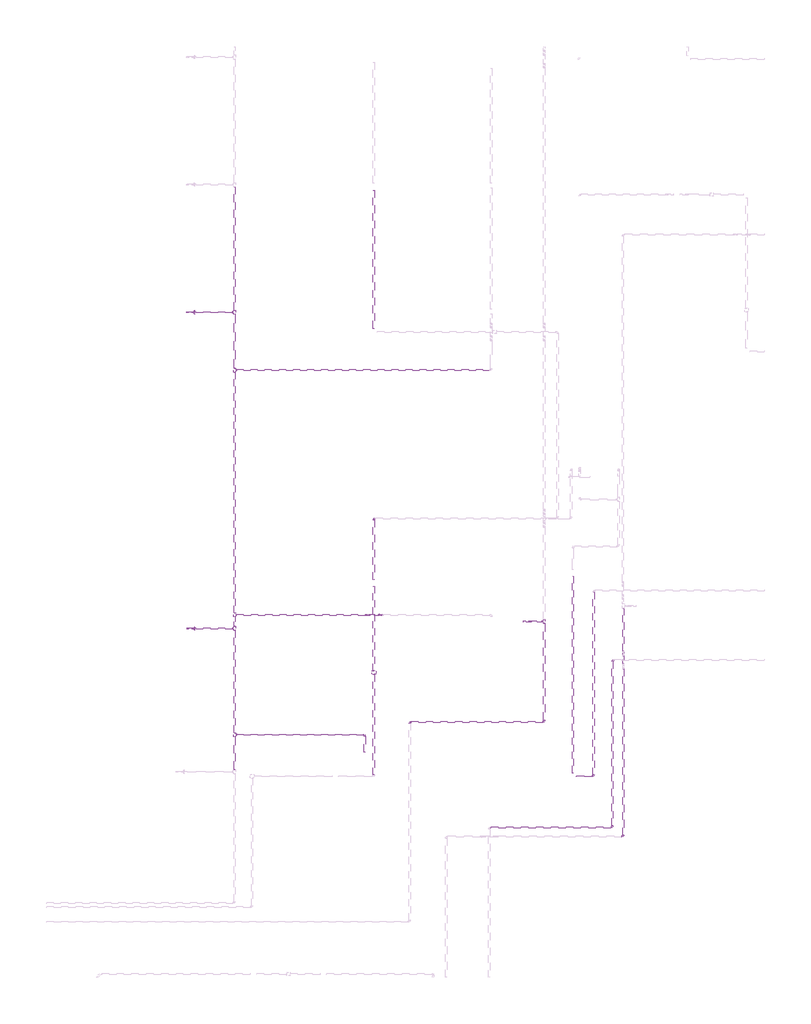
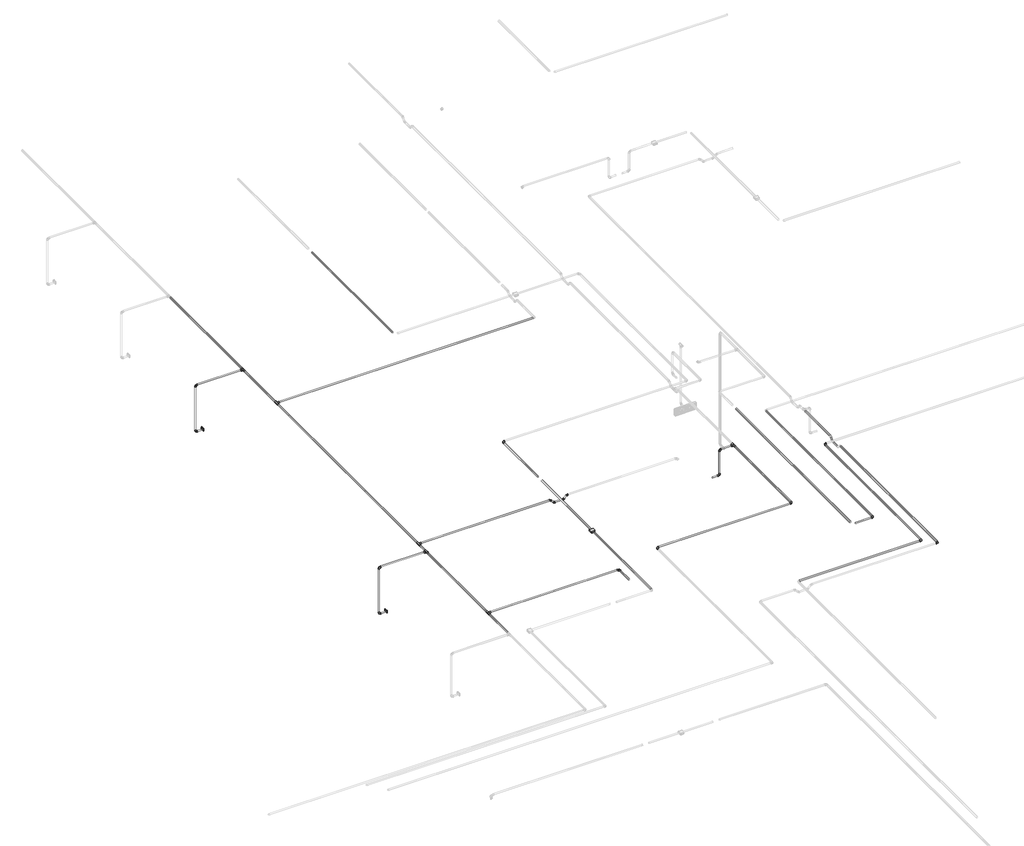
# One storey, part 33 of 40: 37 cable carrier segments, 24 cable carrier fittings, 2 electric appliances, 1 alarm.
"""IFC4 building model written with IfcOpenShell, lengths in millimetres."""

from ifc_helpers import new_model, si_unit, point, frame, frame_2d, origin, place, context, project, spatial, circle_curve, trimmed, segment, composite_curve, outline, extrude, transform, mapped, element, save
from components import alarm_a2247946, cable_carrier_fitting_69f1a801, cable_carrier_fitting_8122f9af, cable_carrier_fitting_8fd13dfc, electric_appliance_5961a143

model = new_model("IFC4")

# Units and contexts
model_context = context("Model", 3, world=origin())
ifc_project = project(units=[si_unit("LENGTHUNIT", "METRE", prefix="MILLI")], contexts=[model_context])

# Site, building, storey
site = spatial("IfcSite", under=ifc_project)
building = spatial("IfcBuilding", under=site)
storey = spatial("IfcBuildingStorey", under=building, Name="1 этаж", Elevation=0.0)

# Alarm
placement = place(None, origin())
alarm_shape = alarm_a2247946(model_context)
element("IfcAlarm", 1, ObjectType="RBZ_ИзоляторШлейфа_Рубеж_ИЗ-1_прот.R3(плоскость) : ИЗ-1 прот.R3", at=placement, inside=storey, context=model_context, shape_type="MappedRepresentation", body=[
    mapped(alarm_shape, transform((7707.6757787, 9264.6370105, 3200.0419569), x_axis=(1.0, 0.0, 0.0), y_axis=(0.0, 1.0, 0.0), z_axis=(0.0, 0.0, 1.0))),
])

# Cable carrier fittings
cable_carrier_fitting_shape = cable_carrier_fitting_69f1a801(model_context)
element("IfcCableCarrierFitting", 2, ObjectType="ADSK_Поворот_Минимальный размер : Неспецифицируемый", at=placement, inside=storey, context=model_context, shape_type="MappedRepresentation", body=[
    mapped(cable_carrier_fitting_shape, transform((11111.1760169, 9444.6370105, 3189.2746228), x_axis=(-0.9999999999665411, 0.0, 8.180339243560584e-06), y_axis=(0.0, -1.0000000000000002, 0.0), z_axis=(8.180339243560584e-06, 0.0, 0.9999999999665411))),
])
element("IfcCableCarrierFitting", 3, ObjectType="ADSK_Поворот_Минимальный размер : Неспецифицируемый", at=placement, inside=storey, context=model_context, shape_type="MappedRepresentation", body=[
    mapped(cable_carrier_fitting_shape, transform((10844.1759979, 7784.6370105, 3189.25), x_axis=(0.9999999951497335, 0.0, 9.849128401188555e-05), y_axis=(0.0, 1.0, 0.0), z_axis=(-9.849128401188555e-05, 0.0, 0.9999999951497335))),
])
element("IfcCableCarrierFitting", 4, ObjectType="ADSK_Поворот_Минимальный размер : Неспецифицируемый", at=placement, inside=storey, context=model_context, shape_type="MappedRepresentation", body=[
    mapped(cable_carrier_fitting_shape, transform((7707.6757787, 11464.6370416, 3189.2923808), x_axis=(-0.9999999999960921, 0.0, -2.79565728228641e-06), y_axis=(5.642374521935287e-11, -0.9999999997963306, -2.0182640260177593e-05), z_axis=(-2.79565728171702e-06, -2.0182640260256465e-05, 0.9999999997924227))),
])
element("IfcCableCarrierFitting", 5, ObjectType="ADSK_Поворот_Минимальный размер : Неспецифицируемый", at=placement, inside=storey, context=model_context, shape_type="MappedRepresentation", body=[
    mapped(cable_carrier_fitting_shape, transform((11111.1760169, 7054.6370105, 3189.2746228), x_axis=(0.9999999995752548, 0.0, -2.9146021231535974e-05), y_axis=(0.0, 1.0, 0.0), z_axis=(2.9146021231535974e-05, 0.0, 0.9999999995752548))),
])
element("IfcCableCarrierFitting", 6, ObjectType="ADSK_Поворот_Минимальный размер : Неспецифицируемый", at=placement, inside=storey, context=model_context, shape_type="MappedRepresentation", body=[
    mapped(cable_carrier_fitting_shape, transform((7577.6759979, 8377.0987933, 3187.0), x_axis=(0.0, 1.0, 0.0), y_axis=(-1.0, 0.0, 0.0), z_axis=(0.0, 0.0, 1.0))),
])
element("IfcCableCarrierFitting", 7, ObjectType="ADSK_Поворот_Минимальный размер : Неспецифицируемый", at=placement, inside=storey, context=model_context, shape_type="MappedRepresentation", body=[
    mapped(cable_carrier_fitting_shape, transform((5043.4761923, 9894.6370105, 2488.0911237), x_axis=(-1.0, 0.0, 0.0), y_axis=(0.0, 0.0, 1.0), z_axis=(0.0, 1.0, 0.0))),
])
element("IfcCableCarrierFitting", 8, ObjectType="ADSK_Поворот_Минимальный размер : Неспецифицируемый", at=placement, inside=storey, context=model_context, shape_type="MappedRepresentation", body=[
    mapped(cable_carrier_fitting_shape, transform((5043.4761923, 9894.6370105, 3187.0), x_axis=(0.0, 0.0, 1.0), y_axis=(1.0, 0.0, 0.0), z_axis=(0.0, 1.0, 0.0))),
])
element("IfcCableCarrierFitting", 9, ObjectType="ADSK_Поворот_Минимальный размер : Неспецифицируемый", at=placement, inside=storey, context=model_context, shape_type="MappedRepresentation", body=[
    mapped(cable_carrier_fitting_shape, transform((5043.4761923, 14404.6370105, 2488.0911237), x_axis=(-1.0, 0.0, 0.0), y_axis=(0.0, 0.0, 1.0), z_axis=(0.0, 1.0, 0.0))),
])
element("IfcCableCarrierFitting", 10, ObjectType="ADSK_Поворот_Минимальный размер : Неспецифицируемый", at=placement, inside=storey, context=model_context, shape_type="MappedRepresentation", body=[
    mapped(cable_carrier_fitting_shape, transform((5043.4761923, 14404.6370105, 3187.0), x_axis=(0.0, 0.0, 1.0), y_axis=(1.0, 0.0, 0.0), z_axis=(0.0, 1.0, 0.0))),
])
element("IfcCableCarrierFitting", 11, ObjectType="ADSK_Поворот_Минимальный размер : Неспецифицируемый", at=placement, inside=storey, context=model_context, shape_type="MappedRepresentation", body=[
    mapped(cable_carrier_fitting_shape, transform((10136.5137184, 8559.7138498, 3180.0), x_axis=(1.0, 0.0, 0.0), y_axis=(0.0, 1.0, 0.0), z_axis=(0.0, 0.0, 1.0))),
])
element("IfcCableCarrierFitting", 12, ObjectType="ADSK_Поворот_Минимальный размер : Неспецифицируемый", at=placement, inside=storey, context=model_context, shape_type="MappedRepresentation", body=[
    mapped(cable_carrier_fitting_shape, transform((8217.6759979, 8559.7138498, 3180.0), x_axis=(-1.0, 0.0, 0.0), y_axis=(0.0, -1.0, 0.0), z_axis=(0.0, 0.0, 1.0))),
])
element("IfcCableCarrierFitting", 13, ObjectType="ADSK_Поворот_Минимальный размер : Неспецифицируемый", at=placement, inside=storey, context=model_context, shape_type="MappedRepresentation", body=[
    mapped(cable_carrier_fitting_shape, transform((9934.8758035, 9994.6370105, 2797.4861504), x_axis=(1.0, 0.0, 0.0), y_axis=(0.0, 0.0, 1.0), z_axis=(0.0, -1.0, 0.0))),
])
element("IfcCableCarrierFitting", 14, ObjectType="ADSK_Поворот_Минимальный размер : Неспецифицируемый", at=placement, inside=storey, context=model_context, shape_type="MappedRepresentation", body=[
    mapped(cable_carrier_fitting_shape, transform((9934.8758035, 9994.6370105, 3180.0), x_axis=(0.0, 0.0, 1.0), y_axis=(1.0, 0.0, 0.0), z_axis=(0.0, 1.0, 0.0))),
])
element("IfcCableCarrierFitting", 15, ObjectType="ADSK_Поворот_Минимальный размер : Неспецифицируемый", at=placement, inside=storey, context=model_context, shape_type="MappedRepresentation", body=[
    mapped(cable_carrier_fitting_shape, transform((11267.6759979, 6924.6370105, 3180.0), x_axis=(1.0, 0.0, 0.0), y_axis=(0.0, 1.0, 0.0), z_axis=(0.0, 0.0, 1.0))),
])
cable_carrier_fitting_2_shape = cable_carrier_fitting_8122f9af(model_context)
element("IfcCableCarrierFitting", 16, ObjectType="ADSK_Поворот_Минимальный размер : Неспецифицируемый", at=placement, inside=storey, context=model_context, shape_type="MappedRepresentation", body=[
    mapped(cable_carrier_fitting_2_shape, transform((7774.24805, 10087.0987933, 3137.0), x_axis=(-0.7071067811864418, 0.0, -0.7071067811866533), y_axis=(-0.7071067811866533, 0.0, 0.7071067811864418), z_axis=(0.0, 1.0, 0.0))),
])
element("IfcCableCarrierFitting", 17, ObjectType="ADSK_Поворот_Минимальный размер : Неспецифицируемый", at=placement, inside=storey, context=model_context, shape_type="MappedRepresentation", body=[
    mapped(cable_carrier_fitting_2_shape, transform((7641.1035075, 10087.0987933, 3137.0), x_axis=(-1.0, 0.0, 0.0), y_axis=(0.0, 0.0, 1.0), z_axis=(0.0, 1.0, 0.0))),
])
element("IfcCableCarrierFitting", 18, ObjectType="ADSK_Поворот_Минимальный размер : Неспецифицируемый", at=placement, inside=storey, context=model_context, shape_type="MappedRepresentation", body=[
    mapped(cable_carrier_fitting_2_shape, transform((7591.1035075, 10087.0987933, 3187.0), x_axis=(-0.7071067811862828, 0.0, 0.7071067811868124), y_axis=(-0.7071067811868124, 0.0, -0.7071067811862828), z_axis=(0.0, -1.0, 0.0))),
])
element("IfcCableCarrierFitting", 19, ObjectType="ADSK_Поворот_Минимальный размер : Неспецифицируемый", at=placement, inside=storey, context=model_context, shape_type="MappedRepresentation", body=[
    mapped(cable_carrier_fitting_2_shape, transform((7824.24805, 10087.0987933, 3187.0), x_axis=(0.7071067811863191, 0.0, 0.7071067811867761), y_axis=(0.7071067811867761, 0.0, -0.7071067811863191), z_axis=(0.0, 1.0, 0.0))),
])
cable_carrier_fitting_3_shape = cable_carrier_fitting_8fd13dfc(model_context)
element("IfcCableCarrierFitting", 20, ObjectType="ADSK_Тройник : ПВХ", at=placement, inside=storey, context=model_context, shape_type="MappedRepresentation", body=[
    mapped(cable_carrier_fitting_3_shape, transform((5717.6759979, 8377.0987933, 3187.0), x_axis=(0.0, 1.0, 0.0), y_axis=(-1.0, 0.0, 0.0), z_axis=(0.0, 0.0, 1.0))),
])
element("IfcCableCarrierFitting", 21, ObjectType="ADSK_Тройник : ПВХ", at=placement, inside=storey, context=model_context, shape_type="MappedRepresentation", body=[
    mapped(cable_carrier_fitting_3_shape, transform((5717.6759979, 9894.6370105, 3187.0), x_axis=(0.0, -1.0, 0.0), y_axis=(1.0, 0.0, 0.0), z_axis=(0.0, 0.0, 1.0))),
])
element("IfcCableCarrierFitting", 22, ObjectType="ADSK_Тройник : ПВХ", at=placement, inside=storey, context=model_context, shape_type="MappedRepresentation", body=[
    mapped(cable_carrier_fitting_3_shape, transform((5717.6759979, 13578.8048473, 3187.0), x_axis=(0.0, 1.0, 0.0), y_axis=(-1.0, 0.0, 0.0), z_axis=(0.0, 0.0, 1.0))),
])
element("IfcCableCarrierFitting", 23, ObjectType="ADSK_Тройник : ПВХ", at=placement, inside=storey, context=model_context, shape_type="MappedRepresentation", body=[
    mapped(cable_carrier_fitting_3_shape, transform((5717.6759979, 14404.6370105, 3187.0), x_axis=(0.0, -1.0, 0.0), y_axis=(1.0, 0.0, 0.0), z_axis=(0.0, 0.0, 1.0))),
])
element("IfcCableCarrierFitting", 24, ObjectType="ADSK_Тройник : ПВХ", at=placement, inside=storey, context=model_context, shape_type="MappedRepresentation", body=[
    mapped(cable_carrier_fitting_3_shape, transform((10136.5137184, 9994.6370105, 3180.0), x_axis=(0.0, -1.0, 0.0), y_axis=(1.0, 0.0, 0.0), z_axis=(0.0, 0.0, 1.0))),
])
element("IfcCableCarrierFitting", 25, ObjectType="ADSK_Тройник : ПВХ", at=placement, inside=storey, context=model_context, shape_type="MappedRepresentation", body=[
    mapped(cable_carrier_fitting_3_shape, transform((5717.6759979, 10087.0987933, 3187.0), x_axis=(0.0, 1.0, 0.0), y_axis=(-1.0, 0.0, 0.0), z_axis=(0.0, 0.0, 1.0))),
])

# Cable carrier segments
element("IfcCableCarrierSegment", 26, ObjectType="Гофрированная труба", at=placement, inside=storey, context=model_context, shape_type="SweptSolid", body=[
    extrude(outline(composite_curve([segment(trimmed(circle_curve(frame_2d((3189.2549719, 10547.6759458)), 10.0), [point((3189.2549719, 10537.6759458))], [point((3179.2549719, 10547.6759458))], False, "CARTESIAN"), True, "CONTINUOUS"), segment(trimmed(circle_curve(frame_2d((3189.2549719, 10547.6759458)), 10.0), [point((3179.2549719, 10547.6759458))], [point((3189.2549719, 10557.6759458))], False, "CARTESIAN"), True, "CONTINUOUS"), segment(trimmed(circle_curve(frame_2d((3189.2549719, 10547.6759458)), 10.0), [point((3189.2549719, 10557.6759458))], [point((3199.2549719, 10547.6759458))], False, "CARTESIAN"), True, "CONTINUOUS"), segment(trimmed(circle_curve(frame_2d((3189.2549719, 10547.6759458)), 10.0), [point((3199.2549719, 10547.6759458))], [point((3189.2549719, 10537.6759458))], False, "CARTESIAN"), True, "CONTINUOUS")], self_intersect=False)), frame((0.0, 7831.1370105, 0.0), z_axis=(0.0, 1.0, 0.0), x_axis=(0.0, 0.0, 1.0)), (0.0, 0.0, 1.0), 2807.0),
])
element("IfcCableCarrierSegment", 27, ObjectType="Гофрированная труба", at=placement, inside=storey, context=model_context, shape_type="SweptSolid", body=[
    extrude(outline(composite_curve([segment(trimmed(circle_curve(frame_2d((3189.2746228, 11111.1760169)), 10.0), [point((3189.2747046, 11101.1760169))], [point((3179.2746228, 11111.1759351))], False, "CARTESIAN"), True, "CONTINUOUS"), segment(trimmed(circle_curve(frame_2d((3189.2746228, 11111.1760169)), 10.0), [point((3179.2746228, 11111.1759351))], [point((3189.274541, 11121.1760169))], False, "CARTESIAN"), True, "CONTINUOUS"), segment(trimmed(circle_curve(frame_2d((3189.2746228, 11111.1760169)), 10.0), [point((3189.274541, 11121.1760169))], [point((3199.2746228, 11111.1760987))], False, "CARTESIAN"), True, "CONTINUOUS"), segment(trimmed(circle_curve(frame_2d((3189.2746228, 11111.1760169)), 10.0), [point((3199.2746228, 11111.1760987))], [point((3189.2747046, 11101.1760169))], False, "CARTESIAN"), True, "CONTINUOUS")], self_intersect=False)), frame((0.0, 7075.6370105, 0.0), z_axis=(0.0, 1.0, 0.0), x_axis=(0.0, 0.0, 1.0)), (0.0, 0.0, 1.0), 2348.0),
])
element("IfcCableCarrierSegment", 28, ObjectType="Гофрированная труба", at=placement, inside=storey, context=model_context, shape_type="SweptSolid", body=[
    extrude(outline(composite_curve([segment(trimmed(circle_curve(frame_2d((0.0, -10.0)), 10.0), [point((-10.0, -10.0))], [point((0.0, 0.0))], False, "CARTESIAN"), True, "CONTINUOUS"), segment(trimmed(circle_curve(frame_2d((0.0, -10.0)), 10.0), [point((0.0, 0.0))], [point((10.0, -10.0))], False, "CARTESIAN"), True, "CONTINUOUS"), segment(trimmed(circle_curve(frame_2d((0.0, -10.0)), 10.0), [point((10.0, -10.0))], [point((0.0, -20.0))], False, "CARTESIAN"), True, "CONTINUOUS"), segment(trimmed(circle_curve(frame_2d((0.0, -10.0)), 10.0), [point((0.0, -20.0))], [point((-10.0, -10.0))], False, "CARTESIAN"), True, "CONTINUOUS")], self_intersect=False)), frame((11090.1758726, 7054.6370105, 3179.2752349), z_axis=(-0.9999999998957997, 0.0, 1.443608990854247e-05), x_axis=(0.0, 1.0, 0.0)), (0.0, 0.0, 1.0), 1715.5000192),
])
element("IfcCableCarrierSegment", 29, ObjectType="Гофрированная труба", at=placement, inside=storey, context=model_context, shape_type="SweptSolid", body=[
    extrude(outline(composite_curve([segment(trimmed(circle_curve(frame_2d((0.0, -10.0)), 10.0), [point((-10.0, -10.0))], [point((0.0, 0.0))], False, "CARTESIAN"), True, "CONTINUOUS"), segment(trimmed(circle_curve(frame_2d((0.0, -10.0)), 10.0), [point((0.0, 0.0))], [point((10.0, -10.0))], False, "CARTESIAN"), True, "CONTINUOUS"), segment(trimmed(circle_curve(frame_2d((0.0, -10.0)), 10.0), [point((10.0, -10.0))], [point((0.0, -20.0))], False, "CARTESIAN"), True, "CONTINUOUS"), segment(trimmed(circle_curve(frame_2d((0.0, -10.0)), 10.0), [point((0.0, -20.0))], [point((-10.0, -10.0))], False, "CARTESIAN"), True, "CONTINUOUS")], self_intersect=False)), frame((10823.1756906, 7784.6370105, 3179.2479317), z_axis=(-0.9999999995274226, 0.0, 3.074336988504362e-05), x_axis=(0.0, 1.0, 0.0)), (0.0, 0.0, 1.0), 229.0000523),
])
element("IfcCableCarrierSegment", 30, ObjectType="Гофрированная труба", at=placement, inside=storey, context=model_context, shape_type="SweptSolid", body=[
    extrude(outline(composite_curve([segment(trimmed(circle_curve(frame_2d((3189.25, 10844.1759979)), 10.0), [point((3189.25, 10834.1759979))], [point((3179.25, 10844.1759979))], False, "CARTESIAN"), True, "CONTINUOUS"), segment(trimmed(circle_curve(frame_2d((3189.25, 10844.1759979)), 10.0), [point((3179.25, 10844.1759979))], [point((3189.25, 10854.1759979))], False, "CARTESIAN"), True, "CONTINUOUS"), segment(trimmed(circle_curve(frame_2d((3189.25, 10844.1759979)), 10.0), [point((3189.25, 10854.1759979))], [point((3199.25, 10844.1759979))], False, "CARTESIAN"), True, "CONTINUOUS"), segment(trimmed(circle_curve(frame_2d((3189.25, 10844.1759979)), 10.0), [point((3199.25, 10844.1759979))], [point((3189.25, 10834.1759979))], False, "CARTESIAN"), True, "CONTINUOUS")], self_intersect=False)), frame((0.0, 7805.6370105, 0.0), z_axis=(0.0, 1.0, 0.0), x_axis=(0.0, 0.0, 1.0)), (0.0, 0.0, 1.0), 2608.0),
])
element("IfcCableCarrierSegment", 31, ObjectType="Гофрированная труба", at=placement, inside=storey, context=model_context, shape_type="SweptSolid", body=[
    extrude(outline(composite_curve([segment(trimmed(circle_curve(frame_2d((3189.2919569, 7707.6757787)), 10.0), [point((3189.291929, 7697.6757787))], [point((3179.2919569, 7707.6758067))], False, "CARTESIAN"), True, "CONTINUOUS"), segment(trimmed(circle_curve(frame_2d((3189.2919569, 7707.6757787)), 10.0), [point((3179.2919569, 7707.6758067))], [point((3189.2919849, 7717.6757787))], False, "CARTESIAN"), True, "CONTINUOUS"), segment(trimmed(circle_curve(frame_2d((3189.2919569, 7707.6757787)), 10.0), [point((3189.2919849, 7717.6757787))], [point((3199.2919569, 7707.6757508))], False, "CARTESIAN"), True, "CONTINUOUS"), segment(trimmed(circle_curve(frame_2d((3189.2919569, 7707.6757787)), 10.0), [point((3199.2919569, 7707.6757508))], [point((3189.291929, 7697.6757787))], False, "CARTESIAN"), True, "CONTINUOUS")], self_intersect=False)), frame((0.0, 10591.1370105, 0.0), z_axis=(0.0, 1.0, 0.0), x_axis=(0.0, 0.0, 1.0)), (0.0, 0.0, 1.0), 852.500031),
])
element("IfcCableCarrierSegment", 32, ObjectType="Гофрированная труба", at=placement, inside=storey, context=model_context, shape_type="SweptSolid", body=[
    extrude(outline(composite_curve([segment(trimmed(circle_curve(frame_2d((3189.2919569, 7707.6757787)), 10.0), [point((3189.2919569, 7717.6757787))], [point((3199.2919569, 7707.6757787))], False, "CARTESIAN"), True, "CONTINUOUS"), segment(trimmed(circle_curve(frame_2d((3189.2919569, 7707.6757787)), 10.0), [point((3199.2919569, 7707.6757787))], [point((3189.2919569, 7697.6757787))], False, "CARTESIAN"), True, "CONTINUOUS"), segment(trimmed(circle_curve(frame_2d((3189.2919569, 7707.6757787)), 10.0), [point((3189.2919569, 7697.6757787))], [point((3179.2919569, 7707.6757787))], False, "CARTESIAN"), True, "CONTINUOUS"), segment(trimmed(circle_curve(frame_2d((3189.2919569, 7707.6757787)), 10.0), [point((3179.2919569, 7707.6757787))], [point((3189.2919569, 7717.6757787))], False, "CARTESIAN"), True, "CONTINUOUS")], self_intersect=False)), frame((0.0, 9290.6370105, 0.0), z_axis=(0.0, 1.0, 0.0), x_axis=(0.0, 0.0, 1.0)), (0.0, 0.0, 1.0), 1207.5),
])
element("IfcCableCarrierSegment", 33, ObjectType="Гофрированная труба", at=placement, inside=storey, context=model_context, shape_type="SweptSolid", body=[
    extrude(outline(composite_curve([segment(trimmed(circle_curve(frame_2d((3189.2919569, 7707.6757787)), 10.0), [point((3189.292904, 7717.6757787))], [point((3199.2919569, 7707.6748317))], False, "CARTESIAN"), True, "CONTINUOUS"), segment(trimmed(circle_curve(frame_2d((3189.2919569, 7707.6757787)), 10.0), [point((3199.2919569, 7707.6748317))], [point((3189.2910099, 7697.6757788))], False, "CARTESIAN"), True, "CONTINUOUS"), segment(trimmed(circle_curve(frame_2d((3189.2919569, 7707.6757787)), 10.0), [point((3189.2910099, 7697.6757788))], [point((3179.291957, 7707.6767258))], False, "CARTESIAN"), True, "CONTINUOUS"), segment(trimmed(circle_curve(frame_2d((3189.2919569, 7707.6757787)), 10.0), [point((3179.291957, 7707.6767258))], [point((3189.292904, 7717.6757787))], False, "CARTESIAN"), True, "CONTINUOUS")], self_intersect=False)), frame((0.0, 7805.6370105, 0.0), z_axis=(0.0, 1.0, 0.0), x_axis=(0.0, 0.0, 1.0)), (0.0, 0.0, 1.0), 1433.0),
])
element("IfcCableCarrierSegment", 34, ObjectType="Гофрированная труба", at=placement, inside=storey, context=model_context, shape_type="SweptSolid", body=[
    extrude(outline(composite_curve([segment(trimmed(circle_curve(frame_2d((3189.2996955, 7707.6757766)), 10.0), [point((3189.2996955, 7697.6757766))], [point((3179.2996955, 7707.6757766))], False, "CARTESIAN"), True, "CONTINUOUS"), segment(trimmed(circle_curve(frame_2d((3189.2996955, 7707.6757766)), 10.0), [point((3179.2996955, 7707.6757766))], [point((3189.2996955, 7717.6757766))], False, "CARTESIAN"), True, "CONTINUOUS"), segment(trimmed(circle_curve(frame_2d((3189.2996955, 7707.6757766)), 10.0), [point((3189.2996955, 7717.6757766))], [point((3199.2996955, 7707.6757766))], False, "CARTESIAN"), True, "CONTINUOUS"), segment(trimmed(circle_curve(frame_2d((3189.2996955, 7707.6757766)), 10.0), [point((3199.2996955, 7707.6757766))], [point((3189.2996955, 7697.6757766))], False, "CARTESIAN"), True, "CONTINUOUS")], self_intersect=False)), frame((0.0, 14171.1370105, 0.0), z_axis=(0.0, 1.0, 0.0), x_axis=(0.0, 0.0, 1.0)), (0.0, 0.0, 1.0), 1977.0),
])
element("IfcCableCarrierSegment", 35, ObjectType="Гофрированная труба", at=placement, inside=storey, context=model_context, shape_type="SweptSolid", body=[
    extrude(outline(composite_curve([segment(trimmed(circle_curve(frame_2d((3187.0, 7577.6759979)), 10.0), [point((3187.0, 7587.6759979))], [point((3197.0, 7577.6759979))], False, "CARTESIAN"), True, "CONTINUOUS"), segment(trimmed(circle_curve(frame_2d((3187.0, 7577.6759979)), 10.0), [point((3197.0, 7577.6759979))], [point((3187.0, 7567.6759979))], False, "CARTESIAN"), True, "CONTINUOUS"), segment(trimmed(circle_curve(frame_2d((3187.0, 7577.6759979)), 10.0), [point((3187.0, 7567.6759979))], [point((3177.0, 7577.6759979))], False, "CARTESIAN"), True, "CONTINUOUS"), segment(trimmed(circle_curve(frame_2d((3187.0, 7577.6759979)), 10.0), [point((3177.0, 7577.6759979))], [point((3187.0, 7587.6759979))], False, "CARTESIAN"), True, "CONTINUOUS")], self_intersect=False)), frame((0.0, 8127.0987933, 0.0), z_axis=(0.0, 1.0, 0.0), x_axis=(0.0, 0.0, 1.0)), (0.0, 0.0, 1.0), 229.0),
])
element("IfcCableCarrierSegment", 36, ObjectType="Гофрированная труба", at=placement, inside=storey, context=model_context, shape_type="SweptSolid", body=[
    extrude(outline(composite_curve([segment(trimmed(circle_curve(frame_2d((8377.0987933, 3187.0)), 10.0), [point((8367.0987933, 3187.0))], [point((8377.0987933, 3197.0))], False, "CARTESIAN"), True, "CONTINUOUS"), segment(trimmed(circle_curve(frame_2d((8377.0987933, 3187.0)), 10.0), [point((8377.0987933, 3197.0))], [point((8387.0987933, 3187.0))], False, "CARTESIAN"), True, "CONTINUOUS"), segment(trimmed(circle_curve(frame_2d((8377.0987933, 3187.0)), 10.0), [point((8387.0987933, 3187.0))], [point((8377.0987933, 3177.0))], False, "CARTESIAN"), True, "CONTINUOUS"), segment(trimmed(circle_curve(frame_2d((8377.0987933, 3187.0)), 10.0), [point((8377.0987933, 3177.0))], [point((8367.0987933, 3187.0))], False, "CARTESIAN"), True, "CONTINUOUS")], self_intersect=False)), frame((5747.6759979, 0.0, 0.0), z_axis=(1.0, 0.0, 0.0), x_axis=(0.0, 1.0, 0.0)), (0.0, 0.0, 1.0), 1809.0),
])
element("IfcCableCarrierSegment", 37, ObjectType="Гофрированная труба", at=placement, inside=storey, context=model_context, shape_type="SweptSolid", body=[
    extrude(outline(composite_curve([segment(trimmed(circle_curve(frame_2d((3187.0, 5717.6759979)), 10.0), [point((3187.0, 5727.6759979))], [point((3197.0, 5717.6759979))], False, "CARTESIAN"), True, "CONTINUOUS"), segment(trimmed(circle_curve(frame_2d((3187.0, 5717.6759979)), 10.0), [point((3197.0, 5717.6759979))], [point((3187.0, 5707.6759979))], False, "CARTESIAN"), True, "CONTINUOUS"), segment(trimmed(circle_curve(frame_2d((3187.0, 5717.6759979)), 10.0), [point((3187.0, 5707.6759979))], [point((3177.0, 5717.6759979))], False, "CARTESIAN"), True, "CONTINUOUS"), segment(trimmed(circle_curve(frame_2d((3187.0, 5717.6759979)), 10.0), [point((3177.0, 5717.6759979))], [point((3187.0, 5727.6759979))], False, "CARTESIAN"), True, "CONTINUOUS")], self_intersect=False)), frame((0.0, 7879.6370105, 0.0), z_axis=(0.0, 1.0, 0.0), x_axis=(0.0, 0.0, 1.0)), (0.0, 0.0, 1.0), 467.4617828),
])
element("IfcCableCarrierSegment", 38, ObjectType="Гофрированная труба", at=placement, inside=storey, context=model_context, shape_type="SweptSolid", body=[
    extrude(outline(composite_curve([segment(trimmed(circle_curve(frame_2d((9894.6370105, 3187.0)), 10.0), [point((9904.6370105, 3187.0))], [point((9894.6370105, 3177.0))], False, "CARTESIAN"), True, "CONTINUOUS"), segment(trimmed(circle_curve(frame_2d((9894.6370105, 3187.0)), 10.0), [point((9894.6370105, 3177.0))], [point((9884.6370105, 3187.0))], False, "CARTESIAN"), True, "CONTINUOUS"), segment(trimmed(circle_curve(frame_2d((9894.6370105, 3187.0)), 10.0), [point((9884.6370105, 3187.0))], [point((9894.6370105, 3197.0))], False, "CARTESIAN"), True, "CONTINUOUS"), segment(trimmed(circle_curve(frame_2d((9894.6370105, 3187.0)), 10.0), [point((9894.6370105, 3197.0))], [point((9904.6370105, 3187.0))], False, "CARTESIAN"), True, "CONTINUOUS")], self_intersect=False)), frame((5064.4761923, 0.0, 0.0), z_axis=(1.0, 0.0, 0.0), x_axis=(0.0, 1.0, 0.0)), (0.0, 0.0, 1.0), 623.1998056),
])
element("IfcCableCarrierSegment", 39, ObjectType="Гофрированная труба", at=placement, inside=storey, context=model_context, shape_type="SweptSolid", body=[
    extrude(outline(composite_curve([segment(trimmed(circle_curve(frame_2d((9894.6370105, 2488.0911237)), 10.0), [point((9904.6370105, 2488.0911237))], [point((9894.6370105, 2478.0911237))], False, "CARTESIAN"), True, "CONTINUOUS"), segment(trimmed(circle_curve(frame_2d((9894.6370105, 2488.0911237)), 10.0), [point((9894.6370105, 2478.0911237))], [point((9884.6370105, 2488.0911237))], False, "CARTESIAN"), True, "CONTINUOUS"), segment(trimmed(circle_curve(frame_2d((9894.6370105, 2488.0911237)), 10.0), [point((9884.6370105, 2488.0911237))], [point((9894.6370105, 2498.0911237))], False, "CARTESIAN"), True, "CONTINUOUS"), segment(trimmed(circle_curve(frame_2d((9894.6370105, 2488.0911237)), 10.0), [point((9894.6370105, 2498.0911237))], [point((9904.6370105, 2488.0911237))], False, "CARTESIAN"), True, "CONTINUOUS")], self_intersect=False)), frame((5064.4761923, 0.0, 0.0), z_axis=(1.0, 0.0, 0.0), x_axis=(0.0, 1.0, 0.0)), (0.0, 0.0, 1.0), 76.1998056),
])
element("IfcCableCarrierSegment", 40, ObjectType="Гофрированная труба", at=placement, inside=storey, context=model_context, shape_type="SweptSolid", body=[
    extrude(outline(composite_curve([segment(trimmed(circle_curve(frame_2d((5043.4761923, 9894.6370105)), 10.0), [point((5033.4761923, 9894.6370105))], [point((5043.4761923, 9904.6370105))], False, "CARTESIAN"), True, "CONTINUOUS"), segment(trimmed(circle_curve(frame_2d((5043.4761923, 9894.6370105)), 10.0), [point((5043.4761923, 9904.6370105))], [point((5053.4761923, 9894.6370105))], False, "CARTESIAN"), True, "CONTINUOUS"), segment(trimmed(circle_curve(frame_2d((5043.4761923, 9894.6370105)), 10.0), [point((5053.4761923, 9894.6370105))], [point((5043.4761923, 9884.6370105))], False, "CARTESIAN"), True, "CONTINUOUS"), segment(trimmed(circle_curve(frame_2d((5043.4761923, 9894.6370105)), 10.0), [point((5043.4761923, 9884.6370105))], [point((5033.4761923, 9894.6370105))], False, "CARTESIAN"), True, "CONTINUOUS")], self_intersect=False)), frame((0.0, 0.0, 2509.0911237), z_axis=(0.0, 0.0, 1.0), x_axis=(1.0, 0.0, 0.0)), (0.0, 0.0, 1.0), 656.9088763),
])
element("IfcCableCarrierSegment", 41, ObjectType="Гофрированная труба", at=placement, inside=storey, context=model_context, shape_type="SweptSolid", body=[
    extrude(outline(composite_curve([segment(trimmed(circle_curve(frame_2d((3187.0, 5717.6759979)), 10.0), [point((3187.0, 5727.6759979))], [point((3197.0, 5717.6759979))], False, "CARTESIAN"), True, "CONTINUOUS"), segment(trimmed(circle_curve(frame_2d((3187.0, 5717.6759979)), 10.0), [point((3197.0, 5717.6759979))], [point((3187.0, 5707.6759979))], False, "CARTESIAN"), True, "CONTINUOUS"), segment(trimmed(circle_curve(frame_2d((3187.0, 5717.6759979)), 10.0), [point((3187.0, 5707.6759979))], [point((3177.0, 5717.6759979))], False, "CARTESIAN"), True, "CONTINUOUS"), segment(trimmed(circle_curve(frame_2d((3187.0, 5717.6759979)), 10.0), [point((3177.0, 5717.6759979))], [point((3187.0, 5727.6759979))], False, "CARTESIAN"), True, "CONTINUOUS")], self_intersect=False)), frame((0.0, 8407.0987933, 0.0), z_axis=(0.0, 1.0, 0.0), x_axis=(0.0, 0.0, 1.0)), (0.0, 0.0, 1.0), 1457.5382172),
])
element("IfcCableCarrierSegment", 42, ObjectType="Гофрированная труба", at=placement, inside=storey, context=model_context, shape_type="SweptSolid", body=[
    extrude(outline(composite_curve([segment(trimmed(circle_curve(frame_2d((13578.8048473, 3187.0)), 10.0), [point((13568.8048473, 3187.0))], [point((13578.8048473, 3197.0))], False, "CARTESIAN"), True, "CONTINUOUS"), segment(trimmed(circle_curve(frame_2d((13578.8048473, 3187.0)), 10.0), [point((13578.8048473, 3197.0))], [point((13588.8048473, 3187.0))], False, "CARTESIAN"), True, "CONTINUOUS"), segment(trimmed(circle_curve(frame_2d((13578.8048473, 3187.0)), 10.0), [point((13588.8048473, 3187.0))], [point((13578.8048473, 3177.0))], False, "CARTESIAN"), True, "CONTINUOUS"), segment(trimmed(circle_curve(frame_2d((13578.8048473, 3187.0)), 10.0), [point((13578.8048473, 3177.0))], [point((13568.8048473, 3187.0))], False, "CARTESIAN"), True, "CONTINUOUS")], self_intersect=False)), frame((5747.6759979, 0.0, 0.0), z_axis=(1.0, 0.0, 0.0), x_axis=(0.0, 1.0, 0.0)), (0.0, 0.0, 1.0), 3614.0),
])
element("IfcCableCarrierSegment", 43, ObjectType="Гофрированная труба", at=placement, inside=storey, context=model_context, shape_type="SweptSolid", body=[
    extrude(outline(composite_curve([segment(trimmed(circle_curve(frame_2d((3187.0, 5717.6759979)), 10.0), [point((3187.0, 5727.6759979))], [point((3197.0, 5717.6759979))], False, "CARTESIAN"), True, "CONTINUOUS"), segment(trimmed(circle_curve(frame_2d((3187.0, 5717.6759979)), 10.0), [point((3197.0, 5717.6759979))], [point((3187.0, 5707.6759979))], False, "CARTESIAN"), True, "CONTINUOUS"), segment(trimmed(circle_curve(frame_2d((3187.0, 5717.6759979)), 10.0), [point((3187.0, 5707.6759979))], [point((3177.0, 5717.6759979))], False, "CARTESIAN"), True, "CONTINUOUS"), segment(trimmed(circle_curve(frame_2d((3187.0, 5717.6759979)), 10.0), [point((3177.0, 5717.6759979))], [point((3187.0, 5727.6759979))], False, "CARTESIAN"), True, "CONTINUOUS")], self_intersect=False)), frame((0.0, 10117.0987933, 0.0), z_axis=(0.0, 1.0, 0.0), x_axis=(0.0, 0.0, 1.0)), (0.0, 0.0, 1.0), 3431.706054),
])
element("IfcCableCarrierSegment", 44, ObjectType="Гофрированная труба", at=placement, inside=storey, context=model_context, shape_type="SweptSolid", body=[
    extrude(outline(composite_curve([segment(trimmed(circle_curve(frame_2d((14404.6370105, 3187.0)), 10.0), [point((14414.6370105, 3187.0))], [point((14404.6370105, 3177.0))], False, "CARTESIAN"), True, "CONTINUOUS"), segment(trimmed(circle_curve(frame_2d((14404.6370105, 3187.0)), 10.0), [point((14404.6370105, 3177.0))], [point((14394.6370105, 3187.0))], False, "CARTESIAN"), True, "CONTINUOUS"), segment(trimmed(circle_curve(frame_2d((14404.6370105, 3187.0)), 10.0), [point((14394.6370105, 3187.0))], [point((14404.6370105, 3197.0))], False, "CARTESIAN"), True, "CONTINUOUS"), segment(trimmed(circle_curve(frame_2d((14404.6370105, 3187.0)), 10.0), [point((14404.6370105, 3197.0))], [point((14414.6370105, 3187.0))], False, "CARTESIAN"), True, "CONTINUOUS")], self_intersect=False)), frame((5064.4761923, 0.0, 0.0), z_axis=(1.0, 0.0, 0.0), x_axis=(0.0, 1.0, 0.0)), (0.0, 0.0, 1.0), 623.1998056),
])
element("IfcCableCarrierSegment", 45, ObjectType="Гофрированная труба", at=placement, inside=storey, context=model_context, shape_type="SweptSolid", body=[
    extrude(outline(composite_curve([segment(trimmed(circle_curve(frame_2d((14404.6370105, 2488.0911237)), 10.0), [point((14414.6370105, 2488.0911237))], [point((14404.6370105, 2478.0911237))], False, "CARTESIAN"), True, "CONTINUOUS"), segment(trimmed(circle_curve(frame_2d((14404.6370105, 2488.0911237)), 10.0), [point((14404.6370105, 2478.0911237))], [point((14394.6370105, 2488.0911237))], False, "CARTESIAN"), True, "CONTINUOUS"), segment(trimmed(circle_curve(frame_2d((14404.6370105, 2488.0911237)), 10.0), [point((14394.6370105, 2488.0911237))], [point((14404.6370105, 2498.0911237))], False, "CARTESIAN"), True, "CONTINUOUS"), segment(trimmed(circle_curve(frame_2d((14404.6370105, 2488.0911237)), 10.0), [point((14404.6370105, 2498.0911237))], [point((14414.6370105, 2488.0911237))], False, "CARTESIAN"), True, "CONTINUOUS")], self_intersect=False)), frame((5064.4761923, 0.0, 0.0), z_axis=(1.0, 0.0, 0.0), x_axis=(0.0, 1.0, 0.0)), (0.0, 0.0, 1.0), 76.1998056),
])
element("IfcCableCarrierSegment", 46, ObjectType="Гофрированная труба", at=placement, inside=storey, context=model_context, shape_type="SweptSolid", body=[
    extrude(outline(composite_curve([segment(trimmed(circle_curve(frame_2d((5043.4761923, 14404.6370105)), 10.0), [point((5033.4761923, 14404.6370105))], [point((5043.4761923, 14414.6370105))], False, "CARTESIAN"), True, "CONTINUOUS"), segment(trimmed(circle_curve(frame_2d((5043.4761923, 14404.6370105)), 10.0), [point((5043.4761923, 14414.6370105))], [point((5053.4761923, 14404.6370105))], False, "CARTESIAN"), True, "CONTINUOUS"), segment(trimmed(circle_curve(frame_2d((5043.4761923, 14404.6370105)), 10.0), [point((5053.4761923, 14404.6370105))], [point((5043.4761923, 14394.6370105))], False, "CARTESIAN"), True, "CONTINUOUS"), segment(trimmed(circle_curve(frame_2d((5043.4761923, 14404.6370105)), 10.0), [point((5043.4761923, 14394.6370105))], [point((5033.4761923, 14404.6370105))], False, "CARTESIAN"), True, "CONTINUOUS")], self_intersect=False)), frame((0.0, 0.0, 2509.0911237), z_axis=(0.0, 0.0, 1.0), x_axis=(1.0, 0.0, 0.0)), (0.0, 0.0, 1.0), 656.9088763),
])
element("IfcCableCarrierSegment", 47, ObjectType="Гофрированная труба", at=placement, inside=storey, context=model_context, shape_type="SweptSolid", body=[
    extrude(outline(composite_curve([segment(trimmed(circle_curve(frame_2d((3187.0, 5717.6759979)), 10.0), [point((3187.0, 5727.6759979))], [point((3197.0, 5717.6759979))], False, "CARTESIAN"), True, "CONTINUOUS"), segment(trimmed(circle_curve(frame_2d((3187.0, 5717.6759979)), 10.0), [point((3197.0, 5717.6759979))], [point((3187.0, 5707.6759979))], False, "CARTESIAN"), True, "CONTINUOUS"), segment(trimmed(circle_curve(frame_2d((3187.0, 5717.6759979)), 10.0), [point((3187.0, 5707.6759979))], [point((3177.0, 5717.6759979))], False, "CARTESIAN"), True, "CONTINUOUS"), segment(trimmed(circle_curve(frame_2d((3187.0, 5717.6759979)), 10.0), [point((3177.0, 5717.6759979))], [point((3187.0, 5727.6759979))], False, "CARTESIAN"), True, "CONTINUOUS")], self_intersect=False)), frame((0.0, 13608.8048473, 0.0), z_axis=(0.0, 1.0, 0.0), x_axis=(0.0, 0.0, 1.0)), (0.0, 0.0, 1.0), 765.8321632),
])
element("IfcCableCarrierSegment", 48, ObjectType="Гофрированная труба", at=placement, inside=storey, context=model_context, shape_type="SweptSolid", body=[
    extrude(outline(composite_curve([segment(trimmed(circle_curve(frame_2d((3187.0, 5717.6759979)), 10.0), [point((3187.0, 5727.6759979))], [point((3197.0, 5717.6759979))], False, "CARTESIAN"), True, "CONTINUOUS"), segment(trimmed(circle_curve(frame_2d((3187.0, 5717.6759979)), 10.0), [point((3197.0, 5717.6759979))], [point((3187.0, 5707.6759979))], False, "CARTESIAN"), True, "CONTINUOUS"), segment(trimmed(circle_curve(frame_2d((3187.0, 5717.6759979)), 10.0), [point((3187.0, 5707.6759979))], [point((3177.0, 5717.6759979))], False, "CARTESIAN"), True, "CONTINUOUS"), segment(trimmed(circle_curve(frame_2d((3187.0, 5717.6759979)), 10.0), [point((3177.0, 5717.6759979))], [point((3187.0, 5727.6759979))], False, "CARTESIAN"), True, "CONTINUOUS")], self_intersect=False)), frame((0.0, 14434.6370105, 0.0), z_axis=(0.0, 1.0, 0.0), x_axis=(0.0, 0.0, 1.0)), (0.0, 0.0, 1.0), 1760.0),
])
element("IfcCableCarrierSegment", 49, ObjectType="Гофрированная труба", at=placement, inside=storey, context=model_context, shape_type="SweptSolid", body=[
    extrude(outline(composite_curve([segment(trimmed(circle_curve(frame_2d((8559.7138498, 3180.0)), 10.0), [point((8569.7138498, 3180.0))], [point((8559.7138498, 3170.0))], False, "CARTESIAN"), True, "CONTINUOUS"), segment(trimmed(circle_curve(frame_2d((8559.7138498, 3180.0)), 10.0), [point((8559.7138498, 3170.0))], [point((8549.7138498, 3180.0))], False, "CARTESIAN"), True, "CONTINUOUS"), segment(trimmed(circle_curve(frame_2d((8559.7138498, 3180.0)), 10.0), [point((8549.7138498, 3180.0))], [point((8559.7138498, 3190.0))], False, "CARTESIAN"), True, "CONTINUOUS"), segment(trimmed(circle_curve(frame_2d((8559.7138498, 3180.0)), 10.0), [point((8559.7138498, 3190.0))], [point((8569.7138498, 3180.0))], False, "CARTESIAN"), True, "CONTINUOUS")], self_intersect=False)), frame((8238.6759979, 0.0, 0.0), z_axis=(1.0, 0.0, 0.0), x_axis=(0.0, 1.0, 0.0)), (0.0, 0.0, 1.0), 1876.8377205),
])
element("IfcCableCarrierSegment", 50, ObjectType="Гофрированная труба", at=placement, inside=storey, context=model_context, shape_type="SweptSolid", body=[
    extrude(outline(composite_curve([segment(trimmed(circle_curve(frame_2d((3130.0, 11267.6759979)), 10.0), [point((3130.0, 11257.6759979))], [point((3120.0, 11267.6759979))], False, "CARTESIAN"), True, "CONTINUOUS"), segment(trimmed(circle_curve(frame_2d((3130.0, 11267.6759979)), 10.0), [point((3120.0, 11267.6759979))], [point((3130.0, 11277.6759979))], False, "CARTESIAN"), True, "CONTINUOUS"), segment(trimmed(circle_curve(frame_2d((3130.0, 11267.6759979)), 10.0), [point((3130.0, 11277.6759979))], [point((3140.0, 11267.6759979))], False, "CARTESIAN"), True, "CONTINUOUS"), segment(trimmed(circle_curve(frame_2d((3130.0, 11267.6759979)), 10.0), [point((3140.0, 11267.6759979))], [point((3130.0, 11257.6759979))], False, "CARTESIAN"), True, "CONTINUOUS")], self_intersect=False)), frame((0.0, 9387.3490105, 0.0), z_axis=(0.0, 1.0, 0.0), x_axis=(0.0, 0.0, 1.0)), (0.0, 0.0, 1.0), 114.576),
])
element("IfcCableCarrierSegment", 51, ObjectType="Гофрированная труба", at=placement, inside=storey, context=model_context, shape_type="SweptSolid", body=[
    extrude(outline(composite_curve([segment(trimmed(circle_curve(frame_2d((9994.6370105, 3180.0)), 10.0), [point((10004.6370105, 3180.0))], [point((9994.6370105, 3170.0))], False, "CARTESIAN"), True, "CONTINUOUS"), segment(trimmed(circle_curve(frame_2d((9994.6370105, 3180.0)), 10.0), [point((9994.6370105, 3170.0))], [point((9984.6370105, 3180.0))], False, "CARTESIAN"), True, "CONTINUOUS"), segment(trimmed(circle_curve(frame_2d((9994.6370105, 3180.0)), 10.0), [point((9984.6370105, 3180.0))], [point((9994.6370105, 3190.0))], False, "CARTESIAN"), True, "CONTINUOUS"), segment(trimmed(circle_curve(frame_2d((9994.6370105, 3180.0)), 10.0), [point((9994.6370105, 3190.0))], [point((10004.6370105, 3180.0))], False, "CARTESIAN"), True, "CONTINUOUS")], self_intersect=False)), frame((9955.8758035, 0.0, 0.0), z_axis=(1.0, 0.0, 0.0), x_axis=(0.0, 1.0, 0.0)), (0.0, 0.0, 1.0), 150.6379149),
])
element("IfcCableCarrierSegment", 52, ObjectType="Гофрированная труба", at=placement, inside=storey, context=model_context, shape_type="SweptSolid", body=[
    extrude(outline(composite_curve([segment(trimmed(circle_curve(frame_2d((9994.6370105, 2797.4861504)), 10.0), [point((9984.6370105, 2797.4861504))], [point((9994.6370105, 2807.4861504))], False, "CARTESIAN"), True, "CONTINUOUS"), segment(trimmed(circle_curve(frame_2d((9994.6370105, 2797.4861504)), 10.0), [point((9994.6370105, 2807.4861504))], [point((10004.6370105, 2797.4861504))], False, "CARTESIAN"), True, "CONTINUOUS"), segment(trimmed(circle_curve(frame_2d((9994.6370105, 2797.4861504)), 10.0), [point((10004.6370105, 2797.4861504))], [point((9994.6370105, 2787.4861504))], False, "CARTESIAN"), True, "CONTINUOUS"), segment(trimmed(circle_curve(frame_2d((9994.6370105, 2797.4861504)), 10.0), [point((9994.6370105, 2787.4861504))], [point((9984.6370105, 2797.4861504))], False, "CARTESIAN"), True, "CONTINUOUS")], self_intersect=False)), frame((9837.6759979, 0.0, 0.0), z_axis=(1.0, 0.0, 0.0), x_axis=(0.0, 1.0, 0.0)), (0.0, 0.0, 1.0), 76.1998056),
])
element("IfcCableCarrierSegment", 53, ObjectType="Гофрированная труба", at=placement, inside=storey, context=model_context, shape_type="SweptSolid", body=[
    extrude(outline(composite_curve([segment(trimmed(circle_curve(frame_2d((9934.8758035, 9994.6370105)), 10.0), [point((9924.8758035, 9994.6370105))], [point((9934.8758035, 10004.6370105))], False, "CARTESIAN"), True, "CONTINUOUS"), segment(trimmed(circle_curve(frame_2d((9934.8758035, 9994.6370105)), 10.0), [point((9934.8758035, 10004.6370105))], [point((9944.8758035, 9994.6370105))], False, "CARTESIAN"), True, "CONTINUOUS"), segment(trimmed(circle_curve(frame_2d((9934.8758035, 9994.6370105)), 10.0), [point((9944.8758035, 9994.6370105))], [point((9934.8758035, 9984.6370105))], False, "CARTESIAN"), True, "CONTINUOUS"), segment(trimmed(circle_curve(frame_2d((9934.8758035, 9994.6370105)), 10.0), [point((9934.8758035, 9984.6370105))], [point((9924.8758035, 9994.6370105))], False, "CARTESIAN"), True, "CONTINUOUS")], self_intersect=False)), frame((0.0, 0.0, 2818.4861504), z_axis=(0.0, 0.0, 1.0), x_axis=(1.0, 0.0, 0.0)), (0.0, 0.0, 1.0), 340.5138496),
])
element("IfcCableCarrierSegment", 54, ObjectType="Гофрированная труба", at=placement, inside=storey, context=model_context, shape_type="SweptSolid", body=[
    extrude(outline(composite_curve([segment(trimmed(circle_curve(frame_2d((3180.0, 10136.5137184)), 10.0), [point((3180.0, 10146.5137184))], [point((3190.0, 10136.5137184))], False, "CARTESIAN"), True, "CONTINUOUS"), segment(trimmed(circle_curve(frame_2d((3180.0, 10136.5137184)), 10.0), [point((3190.0, 10136.5137184))], [point((3180.0, 10126.5137184))], False, "CARTESIAN"), True, "CONTINUOUS"), segment(trimmed(circle_curve(frame_2d((3180.0, 10136.5137184)), 10.0), [point((3180.0, 10126.5137184))], [point((3170.0, 10136.5137184))], False, "CARTESIAN"), True, "CONTINUOUS"), segment(trimmed(circle_curve(frame_2d((3180.0, 10136.5137184)), 10.0), [point((3170.0, 10136.5137184))], [point((3180.0, 10146.5137184))], False, "CARTESIAN"), True, "CONTINUOUS")], self_intersect=False)), frame((0.0, 8580.7138498, 0.0), z_axis=(0.0, 1.0, 0.0), x_axis=(0.0, 0.0, 1.0)), (0.0, 0.0, 1.0), 1383.9231607),
])
element("IfcCableCarrierSegment", 55, ObjectType="Гофрированная труба", at=placement, inside=storey, context=model_context, shape_type="SweptSolid", body=[
    extrude(outline(composite_curve([segment(trimmed(circle_curve(frame_2d((3180.0, 11267.6759979)), 10.0), [point((3180.0, 11257.6759979))], [point((3170.0, 11267.6759979))], False, "CARTESIAN"), True, "CONTINUOUS"), segment(trimmed(circle_curve(frame_2d((3180.0, 11267.6759979)), 10.0), [point((3170.0, 11267.6759979))], [point((3180.0, 11277.6759979))], False, "CARTESIAN"), True, "CONTINUOUS"), segment(trimmed(circle_curve(frame_2d((3180.0, 11267.6759979)), 10.0), [point((3180.0, 11277.6759979))], [point((3190.0, 11267.6759979))], False, "CARTESIAN"), True, "CONTINUOUS"), segment(trimmed(circle_curve(frame_2d((3180.0, 11267.6759979)), 10.0), [point((3190.0, 11267.6759979))], [point((3180.0, 11257.6759979))], False, "CARTESIAN"), True, "CONTINUOUS")], self_intersect=False)), frame((0.0, 9570.493553, 0.0), z_axis=(0.0, 1.0, 0.0), x_axis=(0.0, 0.0, 1.0)), (0.0, 0.0, 1.0), 614.1434575),
])
element("IfcCableCarrierSegment", 56, ObjectType="Гофрированная труба", at=placement, inside=storey, context=model_context, shape_type="SweptSolid", body=[
    extrude(outline(composite_curve([segment(trimmed(circle_curve(frame_2d((0.0, -10.0000001)), 10.0), [point((-10.0, -10.0000001))], [point((0.0, 0.0))], False, "CARTESIAN"), True, "CONTINUOUS"), segment(trimmed(circle_curve(frame_2d((0.0, -10.0000001)), 10.0), [point((0.0, 0.0))], [point((10.0, -10.0000001))], False, "CARTESIAN"), True, "CONTINUOUS"), segment(trimmed(circle_curve(frame_2d((0.0, -10.0000001)), 10.0), [point((10.0, -10.0000001))], [point((0.0, -20.0))], False, "CARTESIAN"), True, "CONTINUOUS"), segment(trimmed(circle_curve(frame_2d((0.0, -10.0000001)), 10.0), [point((0.0, -20.0))], [point((-10.0, -10.0000001))], False, "CARTESIAN"), True, "CONTINUOUS")], self_intersect=False)), frame((11267.6759979, 9524.8453207, 3129.4939033), z_axis=(0.0, 0.7071067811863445, 0.7071067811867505), x_axis=(1.0, 0.0, 0.0)), (0.0, 0.0, 1.0), 52.1421356),
])
element("IfcCableCarrierSegment", 57, ObjectType="Гофрированная труба", at=placement, inside=storey, context=model_context, shape_type="SweptSolid", body=[
    extrude(outline(composite_curve([segment(trimmed(circle_curve(frame_2d((3180.0, 11267.6759979)), 10.0), [point((3180.0, 11257.6759979))], [point((3170.0, 11267.6759979))], False, "CARTESIAN"), True, "CONTINUOUS"), segment(trimmed(circle_curve(frame_2d((3180.0, 11267.6759979)), 10.0), [point((3170.0, 11267.6759979))], [point((3180.0, 11277.6759979))], False, "CARTESIAN"), True, "CONTINUOUS"), segment(trimmed(circle_curve(frame_2d((3180.0, 11267.6759979)), 10.0), [point((3180.0, 11277.6759979))], [point((3190.0, 11267.6759979))], False, "CARTESIAN"), True, "CONTINUOUS"), segment(trimmed(circle_curve(frame_2d((3180.0, 11267.6759979)), 10.0), [point((3190.0, 11267.6759979))], [point((3180.0, 11257.6759979))], False, "CARTESIAN"), True, "CONTINUOUS")], self_intersect=False)), frame((0.0, 6945.6370105, 0.0), z_axis=(0.0, 1.0, 0.0), x_axis=(0.0, 0.0, 1.0)), (0.0, 0.0, 1.0), 2373.1434575),
])
element("IfcCableCarrierSegment", 58, ObjectType="Гофрированная труба", at=placement, inside=storey, context=model_context, shape_type="SweptSolid", body=[
    extrude(outline(composite_curve([segment(trimmed(circle_curve(frame_2d((10087.0987933, 3137.0)), 10.0), [point((10097.0987933, 3137.0))], [point((10087.0987933, 3127.0))], False, "CARTESIAN"), True, "CONTINUOUS"), segment(trimmed(circle_curve(frame_2d((10087.0987933, 3137.0)), 10.0), [point((10087.0987933, 3127.0))], [point((10077.0987933, 3137.0))], False, "CARTESIAN"), True, "CONTINUOUS"), segment(trimmed(circle_curve(frame_2d((10087.0987933, 3137.0)), 10.0), [point((10077.0987933, 3137.0))], [point((10087.0987933, 3147.0))], False, "CARTESIAN"), True, "CONTINUOUS"), segment(trimmed(circle_curve(frame_2d((10087.0987933, 3137.0)), 10.0), [point((10087.0987933, 3147.0))], [point((10097.0987933, 3137.0))], False, "CARTESIAN"), True, "CONTINUOUS")], self_intersect=False)), frame((7650.3877787, 0.0, 0.0), z_axis=(1.0, 0.0, 0.0), x_axis=(0.0, 1.0, 0.0)), (0.0, 0.0, 1.0), 114.576),
])
element("IfcCableCarrierSegment", 59, ObjectType="Гофрированная труба", at=placement, inside=storey, context=model_context, shape_type="SweptSolid", body=[
    extrude(outline(composite_curve([segment(trimmed(circle_curve(frame_2d((3187.0, 5717.6759979)), 10.0), [point((3187.0, 5727.6759979))], [point((3197.0, 5717.6759979))], False, "CARTESIAN"), True, "CONTINUOUS"), segment(trimmed(circle_curve(frame_2d((3187.0, 5717.6759979)), 10.0), [point((3197.0, 5717.6759979))], [point((3187.0, 5707.6759979))], False, "CARTESIAN"), True, "CONTINUOUS"), segment(trimmed(circle_curve(frame_2d((3187.0, 5717.6759979)), 10.0), [point((3187.0, 5707.6759979))], [point((3177.0, 5717.6759979))], False, "CARTESIAN"), True, "CONTINUOUS"), segment(trimmed(circle_curve(frame_2d((3187.0, 5717.6759979)), 10.0), [point((3177.0, 5717.6759979))], [point((3187.0, 5727.6759979))], False, "CARTESIAN"), True, "CONTINUOUS")], self_intersect=False)), frame((0.0, 9924.6370105, 0.0), z_axis=(0.0, 1.0, 0.0), x_axis=(0.0, 0.0, 1.0)), (0.0, 0.0, 1.0), 132.4617828),
])
element("IfcCableCarrierSegment", 60, ObjectType="Гофрированная труба", at=placement, inside=storey, context=model_context, shape_type="SweptSolid", body=[
    extrude(outline(composite_curve([segment(trimmed(circle_curve(frame_2d((0.0, -10.0)), 10.0), [point((0.0, 0.0))], [point((10.0000001, -10.0))], False, "CARTESIAN"), True, "CONTINUOUS"), segment(trimmed(circle_curve(frame_2d((0.0, -10.0)), 10.0), [point((10.0000001, -10.0))], [point((0.0, -20.0))], False, "CARTESIAN"), True, "CONTINUOUS"), segment(trimmed(circle_curve(frame_2d((0.0, -10.0)), 10.0), [point((0.0, -20.0))], [point((-10.0, -10.0))], False, "CARTESIAN"), True, "CONTINUOUS"), segment(trimmed(circle_curve(frame_2d((0.0, -10.0)), 10.0), [point((-10.0, -10.0))], [point((0.0, 0.0))], False, "CARTESIAN"), True, "CONTINUOUS")], self_intersect=False)), frame((7780.8130211, 10097.0987933, 3143.5649712), z_axis=(0.7071067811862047, 0.0, 0.7071067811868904), x_axis=(0.7071067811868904, 0.0, -0.7071067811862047)), (0.0, 0.0, 1.0), 52.1421356),
])
element("IfcCableCarrierSegment", 61, ObjectType="Гофрированная труба", at=placement, inside=storey, context=model_context, shape_type="SweptSolid", body=[
    extrude(outline(composite_curve([segment(trimmed(circle_curve(frame_2d((10087.0987933, 3187.0)), 10.0), [point((10097.0987933, 3187.0))], [point((10087.0987933, 3177.0))], False, "CARTESIAN"), True, "CONTINUOUS"), segment(trimmed(circle_curve(frame_2d((10087.0987933, 3187.0)), 10.0), [point((10087.0987933, 3177.0))], [point((10077.0987933, 3187.0))], False, "CARTESIAN"), True, "CONTINUOUS"), segment(trimmed(circle_curve(frame_2d((10087.0987933, 3187.0)), 10.0), [point((10077.0987933, 3187.0))], [point((10087.0987933, 3197.0))], False, "CARTESIAN"), True, "CONTINUOUS"), segment(trimmed(circle_curve(frame_2d((10087.0987933, 3187.0)), 10.0), [point((10087.0987933, 3197.0))], [point((10097.0987933, 3187.0))], False, "CARTESIAN"), True, "CONTINUOUS")], self_intersect=False)), frame((5747.6759979, 0.0, 0.0), z_axis=(1.0, 0.0, 0.0), x_axis=(0.0, 1.0, 0.0)), (0.0, 0.0, 1.0), 1834.1432383),
])
element("IfcCableCarrierSegment", 62, ObjectType="Гофрированная труба", at=placement, inside=storey, context=model_context, shape_type="SweptSolid", body=[
    extrude(outline(composite_curve([segment(trimmed(circle_curve(frame_2d((0.0, 10.0)), 10.0), [point((0.0, 20.0))], [point((10.0, 10.0))], False, "CARTESIAN"), True, "CONTINUOUS"), segment(trimmed(circle_curve(frame_2d((0.0, 10.0)), 10.0), [point((10.0, 10.0))], [point((0.0, 0.0))], False, "CARTESIAN"), True, "CONTINUOUS"), segment(trimmed(circle_curve(frame_2d((0.0, 10.0)), 10.0), [point((0.0, 0.0))], [point((-10.0000001, 10.0))], False, "CARTESIAN"), True, "CONTINUOUS"), segment(trimmed(circle_curve(frame_2d((0.0, 10.0)), 10.0), [point((-10.0000001, 10.0))], [point((0.0, 20.0))], False, "CARTESIAN"), True, "CONTINUOUS")], self_intersect=False)), frame((7634.5385363, 10077.0987933, 3143.5649712), z_axis=(-0.7071067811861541, 0.0, 0.707106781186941), x_axis=(0.707106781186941, 0.0, 0.7071067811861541)), (0.0, 0.0, 1.0), 52.1421356),
])

# Electric appliances
electric_appliance_shape = electric_appliance_5961a143(model_context)
element("IfcElectricAppliance", 63, ObjectType="RBZ_Извещатель_ОхранныйМагнитоуправляемый _Рубеж_ИО 10220-2(грань) : ИО 10220-2", at=placement, inside=storey, context=model_context, shape_type="MappedRepresentation", body=[
    mapped(electric_appliance_shape, transform((5140.6759979, 14404.6370105, 2500.0), x_axis=(0.0, -1.0, 0.0), y_axis=(0.0, 0.0, -1.0), z_axis=(1.0, 0.0, 0.0))),
])
element("IfcElectricAppliance", 64, ObjectType="RBZ_Извещатель_ОхранныйМагнитоуправляемый _Рубеж_ИО 10220-2(грань) : ИО 10220-2", at=placement, inside=storey, context=model_context, shape_type="MappedRepresentation", body=[
    mapped(electric_appliance_shape, transform((5140.6759979, 9894.6370105, 2500.0), x_axis=(0.0, -1.0, 0.0), y_axis=(0.0, 0.0, -1.0), z_axis=(1.0, 0.0, 0.0))),
])

save(model, "model.ifc")
